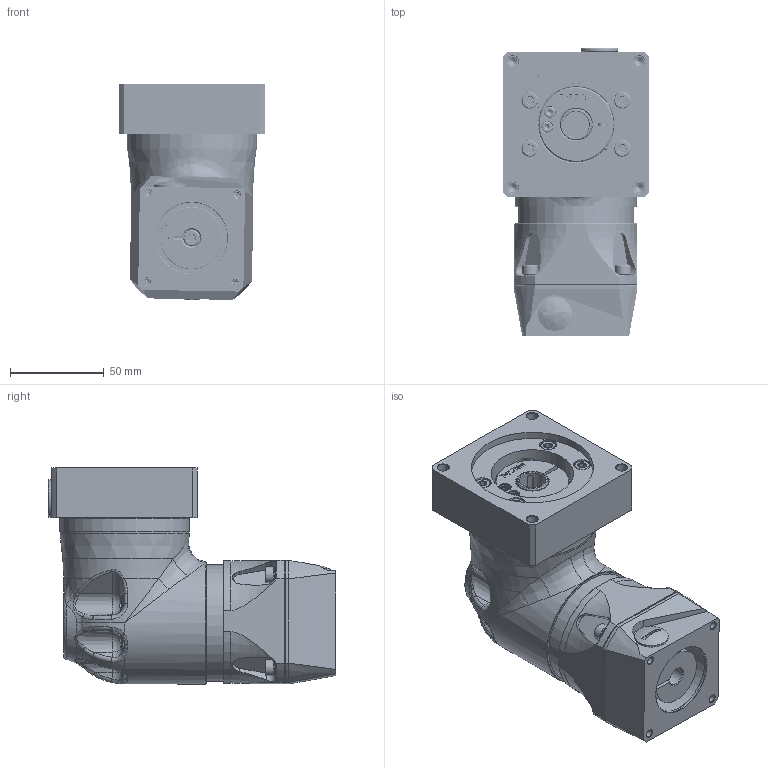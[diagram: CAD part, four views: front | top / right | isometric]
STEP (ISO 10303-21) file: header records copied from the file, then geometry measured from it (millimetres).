
FILE_DESCRIPTION (( 'STEP AP214' ), '1' );
FILE_NAME ('EPR-U-064-M1814-H1073 (14mm).STEP', '2024-10-25T15:55:17', ( '' ), ( '' ), 'SwSTEP 2.0', 'SolidWorks 2020', '' );
FILE_SCHEMA (( 'AUTOMOTIVE_DESIGN' ));
Length unit declared in the file: millimetre
Products named in the file (13): EPR-U-064-M1814-H1073 (14mm); M1814_EPL-064; H1073_EPL-U-064; 4505XXXX M5 SHCS_M5 X 20; 23030135 EPL-U-064 to Macron 28-12 0.3750in Shaft; EPR-U-064_EPR-U-064 IIG 14mm; 4505XXXX M5 SHCS_M5 X 16; 55012112 EPL-U-064 to Macron 28-12 Adapter; 51040002 14mm Plug; 4505XXXX M5 SHCS_M5 X 25                                            ; 077-A01; 51020002 M16 Threaded Plug; 47050010 BVL M5 5x9x0.60mm ST
Assembly tree (26 placements, depth 3):
  EPR-U-064-M1814-H1073 (14mm)
    EPR-U-064_EPR-U-064 IIG 14mm
    H1073_EPL-U-064
      55012112 EPL-U-064 to Macron 28-12 Adapter
      4505XXXX M5 SHCS_M5 X 20
      47050010 BVL M5 5x9x0.60mm ST  x5
      4505XXXX M5 SHCS_M5 X 16  x4
      51020002 M16 Threaded Plug
      23030135 EPL-U-064 to Macron 28-12 0.3750in Shaft
    M1814_EPL-064
      077-A01
      51040002 14mm Plug
    4505XXXX M5 SHCS_M5 X 25                                              x4
    47050010 BVL M5 5x9x0.60mm ST  x4
Bounding box: 77.4 x 153.04 x 115 mm (x, y, z)
Volume: 423683.6 mm3; surface area: 192730.9 mm2
Topology: 100 solids, 101 shells, 3847 faces, 10239 edges, 6620 vertices
Faces by surface type: cone 1526, bspline 1158, plane 601, cylinder 479, torus 77, sphere 6
Full cylindrical faces by diameter (mm): 1.7 x2, 2 x4, 2.5 x1, 3.3 x12, 3.7 x16, 4 x39, 4.2 x4, 4.45 x8, 4.5 x11, 5 x30, 5.2 x1, 5.49 x4, 5.5 x4, 5.55 x2, 6 x9, 6.5 x1, 7 x10, 7.5 x6, 8 x4, 8.5 x10, 9 x5, 9.775 x1, 11 x1, 11.5 x1, 11.75 x1, 12 x3, 12.5 x1, 14 x4, 14.2 x1, 15.192 x1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
Entity records: 67532 total; most frequent: CARTESIAN_POINT 28692, ORIENTED_EDGE 7360, DIRECTION 7275, EDGE_CURVE 3680, AXIS2_PLACEMENT_3D 3207, EDGE_LOOP 2608, VERTEX_POINT 2558, FACE_OUTER_BOUND 2133
